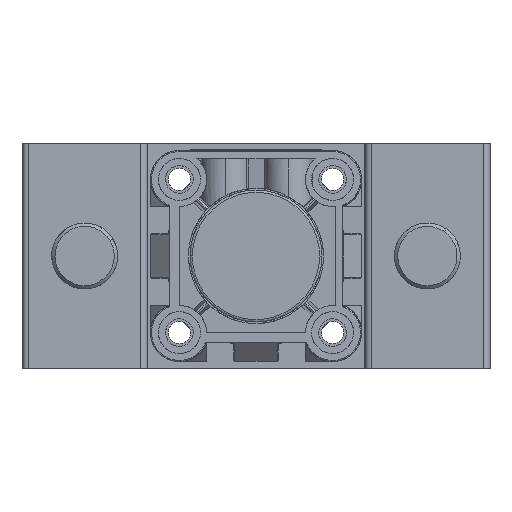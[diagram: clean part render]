
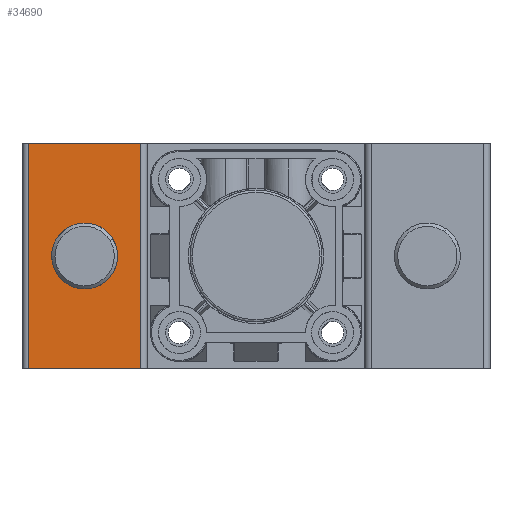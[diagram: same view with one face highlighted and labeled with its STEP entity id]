
A CAD part, front view. The second image highlights one B-rep face of the part: STEP entity #34690.
In plain terms, the highlighted planar face has unit normal (0, -1, 0).
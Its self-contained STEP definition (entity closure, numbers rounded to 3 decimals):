
#376 = VERTEX_POINT ( 'NONE', #30008 ) ;
#670 = CARTESIAN_POINT ( 'NONE',  ( 36., -151., 68.5 ) ) ;
#1091 = VERTEX_POINT ( 'NONE', #16652 ) ;
#1910 = DIRECTION ( 'NONE',  ( 1., 0., 0. ) ) ;
#2831 = CIRCLE ( 'NONE', #9361, 10. ) ;
#5066 = CARTESIAN_POINT ( 'NONE',  ( 19., -151., 24.25 ) ) ;
#5167 = VECTOR ( 'NONE', #32994, 1000. ) ;
#5337 = ORIENTED_EDGE ( 'NONE', *, *, #25632, .F. ) ;
#5859 = CARTESIAN_POINT ( 'NONE',  ( 36., -151., 0. ) ) ;
#5956 = VERTEX_POINT ( 'NONE', #5066 ) ;
#5998 = ORIENTED_EDGE ( 'NONE', *, *, #18520, .T. ) ;
#6151 = DIRECTION ( 'NONE',  ( 0., 0., -1. ) ) ;
#6819 = DIRECTION ( 'NONE',  ( 0., 1., 0. ) ) ;
#7572 = LINE ( 'NONE', #32057, #30194 ) ;
#8094 = VERTEX_POINT ( 'NONE', #13537 ) ;
#8428 = FACE_BOUND ( 'NONE', #38117, .T. ) ;
#8694 = DIRECTION ( 'NONE',  ( 0., -1., 0. ) ) ;
#9045 = CIRCLE ( 'NONE', #31669, 10. ) ;
#9361 = AXIS2_PLACEMENT_3D ( 'NONE', #11734, #32319, #14681 ) ;
#10702 = VERTEX_POINT ( 'NONE', #5859 ) ;
#11734 = CARTESIAN_POINT ( 'NONE',  ( 19., -151., 34.25 ) ) ;
#12096 = LINE ( 'NONE', #670, #5167 ) ;
#12106 = EDGE_CURVE ( 'NONE', #8094, #31954, #7572, .T. ) ;
#12211 = AXIS2_PLACEMENT_3D ( 'NONE', #12481, #6819, #27428 ) ;
#12481 = CARTESIAN_POINT ( 'NONE',  ( 36., -151., 68.5 ) ) ;
#13197 = ORIENTED_EDGE ( 'NONE', *, *, #36276, .F. ) ;
#13537 = CARTESIAN_POINT ( 'NONE',  ( 2., -151., 68.5 ) ) ;
#14681 = DIRECTION ( 'NONE',  ( 0., 0., -1. ) ) ;
#16272 = EDGE_CURVE ( 'NONE', #1091, #10702, #28199, .T. ) ;
#16502 = LINE ( 'NONE', #19536, #31295 ) ;
#16652 = CARTESIAN_POINT ( 'NONE',  ( 36., -151., 68.5 ) ) ;
#18520 = EDGE_CURVE ( 'NONE', #31954, #10702, #16502, .T. ) ;
#18530 = PLANE ( 'NONE',  #12211 ) ;
#19536 = CARTESIAN_POINT ( 'NONE',  ( 36., -151., 0. ) ) ;
#19706 = EDGE_CURVE ( 'NONE', #5956, #376, #2831, .T. ) ;
#20351 = DIRECTION ( 'NONE',  ( 0., 0., -1. ) ) ;
#20359 = VECTOR ( 'NONE', #6151, 1000. ) ;
#22886 = CARTESIAN_POINT ( 'NONE',  ( 2., -151., 0. ) ) ;
#23181 = FACE_OUTER_BOUND ( 'NONE', #36694, .T. ) ;
#25632 = EDGE_CURVE ( 'NONE', #376, #5956, #9045, .T. ) ;
#26349 = CARTESIAN_POINT ( 'NONE',  ( 19., -151., 34.25 ) ) ;
#26966 = ORIENTED_EDGE ( 'NONE', *, *, #19706, .F. ) ;
#27428 = DIRECTION ( 'NONE',  ( -1., 0., 0. ) ) ;
#28199 = LINE ( 'NONE', #35517, #20359 ) ;
#29308 = DIRECTION ( 'NONE',  ( 0., 0., -1. ) ) ;
#29391 = ORIENTED_EDGE ( 'NONE', *, *, #12106, .T. ) ;
#30008 = CARTESIAN_POINT ( 'NONE',  ( 19., -151., 44.25 ) ) ;
#30194 = VECTOR ( 'NONE', #20351, 1000. ) ;
#31295 = VECTOR ( 'NONE', #1910, 1000. ) ;
#31669 = AXIS2_PLACEMENT_3D ( 'NONE', #26349, #8694, #29308 ) ;
#31954 = VERTEX_POINT ( 'NONE', #22886 ) ;
#32057 = CARTESIAN_POINT ( 'NONE',  ( 2., -151., 68.5 ) ) ;
#32319 = DIRECTION ( 'NONE',  ( 0., -1., 0. ) ) ;
#32994 = DIRECTION ( 'NONE',  ( 1., 0., 0. ) ) ;
#33950 = ORIENTED_EDGE ( 'NONE', *, *, #16272, .F. ) ;
#34690 = ADVANCED_FACE ( 'NONE', ( #8428, #23181 ), #18530, .F. ) ;
#35517 = CARTESIAN_POINT ( 'NONE',  ( 36., -151., 68.5 ) ) ;
#36276 = EDGE_CURVE ( 'NONE', #8094, #1091, #12096, .T. ) ;
#36694 = EDGE_LOOP ( 'NONE', ( #5998, #33950, #13197, #29391 ) ) ;
#38117 = EDGE_LOOP ( 'NONE', ( #26966, #5337 ) ) ;
